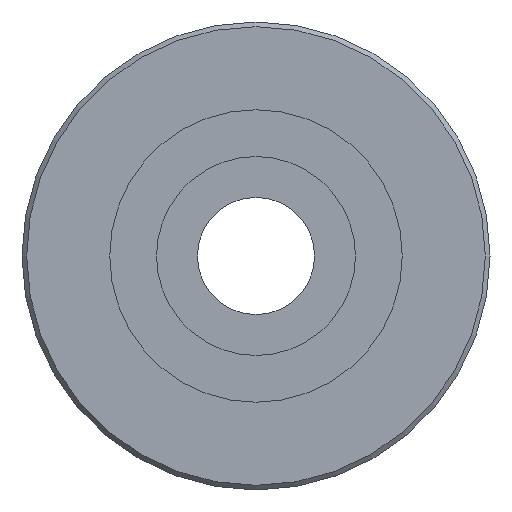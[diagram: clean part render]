
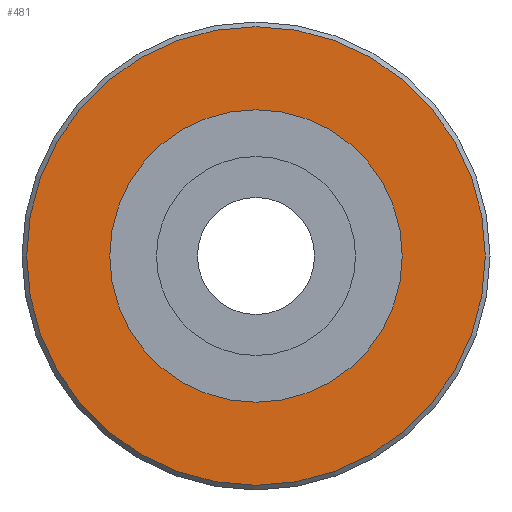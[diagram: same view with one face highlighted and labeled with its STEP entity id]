
A CAD part, left-side view. The second image highlights one B-rep face of the part: STEP entity #481.
In plain terms, the highlighted planar face has unit normal (-1, 0, 0).
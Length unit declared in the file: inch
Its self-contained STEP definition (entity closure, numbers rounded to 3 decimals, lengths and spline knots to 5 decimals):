
#454=CARTESIAN_POINT('',(10.75,33.8,0.));
#455=VERTEX_POINT('',#454);
#456=CARTESIAN_POINT('',(10.75,24.,0.));
#457=DIRECTION('',(-1.,0.,0.));
#458=DIRECTION('',(0.,1.,0.));
#459=AXIS2_PLACEMENT_3D('',#456,#457,#458);
#460=CIRCLE('',#459,9.8);
#461=EDGE_CURVE('',#455,#455,#460,.T.);
#462=ORIENTED_EDGE('',*,*,#461,.T.);
#463=EDGE_LOOP('',(#462));
#464=FACE_OUTER_BOUND('',#463,.T.);
#465=CARTESIAN_POINT('',(10.75,30.25,0.));
#466=VERTEX_POINT('',#465);
#467=CARTESIAN_POINT('',(10.75,24.,0.));
#468=DIRECTION('',(-1.,0.,0.));
#469=DIRECTION('',(0.,1.,0.));
#470=AXIS2_PLACEMENT_3D('',#467,#468,#469);
#471=CIRCLE('',#470,6.25);
#472=EDGE_CURVE('',#466,#466,#471,.T.);
#473=ORIENTED_EDGE('',*,*,#472,.F.);
#474=EDGE_LOOP('',(#473));
#475=FACE_BOUND('',#474,.T.);
#476=CARTESIAN_POINT('',(10.75,32.025,0.));
#477=DIRECTION('',(-1.,0.,0.));
#478=DIRECTION('',(0.,1.,0.));
#479=AXIS2_PLACEMENT_3D('',#476,#477,#478);
#480=PLANE('',#479);
#481=ADVANCED_FACE('',(#464,#475),#480,.T.);
